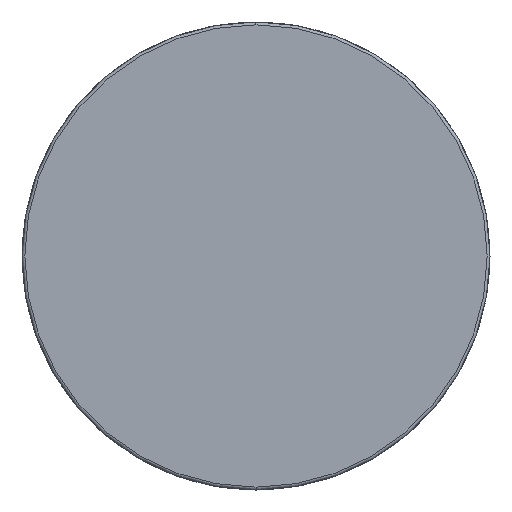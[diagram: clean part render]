
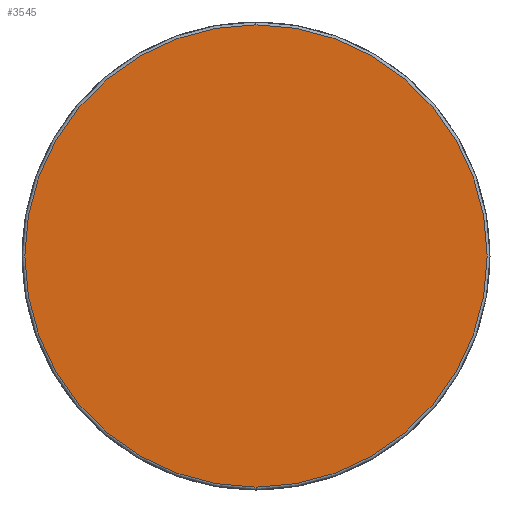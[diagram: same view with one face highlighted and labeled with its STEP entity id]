
A CAD part, left-side view. The second image highlights one B-rep face of the part: STEP entity #3545.
In plain terms, the highlighted planar face has unit normal (-1, 0, 0).
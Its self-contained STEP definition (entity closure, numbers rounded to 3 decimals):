
#116 = CIRCLE ( 'NONE', #4168, 40.5 ) ;
#317 = CIRCLE ( 'NONE', #1315, 40.5 ) ;
#579 = AXIS2_PLACEMENT_3D ( 'NONE', #2655, #2590, #1593 ) ;
#1315 = AXIS2_PLACEMENT_3D ( 'NONE', #1718, #2054, #3917 ) ;
#1333 = EDGE_LOOP ( 'NONE', ( #4386, #2271 ) ) ;
#1593 = DIRECTION ( 'NONE',  ( 0., 0., -1. ) ) ;
#1718 = CARTESIAN_POINT ( 'NONE',  ( 0., 0., 0. ) ) ;
#1850 = CARTESIAN_POINT ( 'NONE',  ( 0., 0., 40.5 ) ) ;
#1946 = EDGE_CURVE ( 'NONE', #2656, #4112, #317, .T. ) ;
#2054 = DIRECTION ( 'NONE',  ( -1., 0., 0. ) ) ;
#2271 = ORIENTED_EDGE ( 'NONE', *, *, #1946, .T. ) ;
#2590 = DIRECTION ( 'NONE',  ( 1., 0., 0. ) ) ;
#2655 = CARTESIAN_POINT ( 'NONE',  ( 0., 0., 0. ) ) ;
#2656 = VERTEX_POINT ( 'NONE', #1850 ) ;
#3382 = CARTESIAN_POINT ( 'NONE',  ( 0., 0., 0. ) ) ;
#3465 = CARTESIAN_POINT ( 'NONE',  ( 0., 0., -40.5 ) ) ;
#3545 = ADVANCED_FACE ( 'NONE', ( #4504 ), #3682, .F. ) ;
#3563 = EDGE_CURVE ( 'NONE', #4112, #2656, #116, .T. ) ;
#3682 = PLANE ( 'NONE',  #579 ) ;
#3769 = DIRECTION ( 'NONE',  ( -1., 0., 0. ) ) ;
#3917 = DIRECTION ( 'NONE',  ( 0., 0., -1. ) ) ;
#4112 = VERTEX_POINT ( 'NONE', #3465 ) ;
#4159 = DIRECTION ( 'NONE',  ( 0., 0., -1. ) ) ;
#4168 = AXIS2_PLACEMENT_3D ( 'NONE', #3382, #3769, #4159 ) ;
#4386 = ORIENTED_EDGE ( 'NONE', *, *, #3563, .T. ) ;
#4504 = FACE_OUTER_BOUND ( 'NONE', #1333, .T. ) ;
